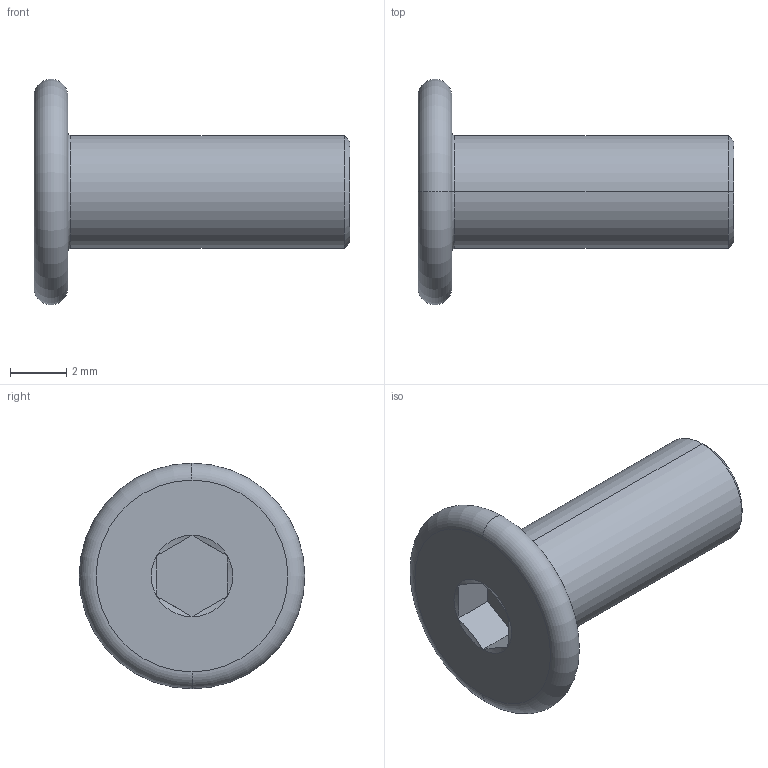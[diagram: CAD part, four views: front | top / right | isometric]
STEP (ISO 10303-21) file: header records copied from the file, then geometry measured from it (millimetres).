
FILE_DESCRIPTION (( 'STEP AP203' ), '1' );
FILE_NAME ('LGD-304M-M4x10.STEP', '2026-08-13T10:02:50', ( '' ), ( '' ), 'SwSTEP 2.0', 'SolidWorks 2020', '' );
FILE_SCHEMA (( 'CONFIG_CONTROL_DESIGN' ));
Length unit declared in the file: millimetre
Products named in the file (1): LGD-304M-M4x10
Bounding box: 11.2 x 8 x 8 mm (x, y, z)
Volume: 173.9 mm3; surface area: 253.7 mm2
Topology: 1 solids, 1 shells, 24 faces, 44 edges, 24 vertices
Faces by surface type: plane 10, cone 8, torus 4, cylinder 2
Entity records: 673 total; most frequent: CARTESIAN_POINT 119, DIRECTION 110, ORIENTED_EDGE 88, AXIS2_PLACEMENT_3D 47, EDGE_CURVE 44, EDGE_LOOP 26, ADVANCED_FACE 24, FACE_OUTER_BOUND 24
